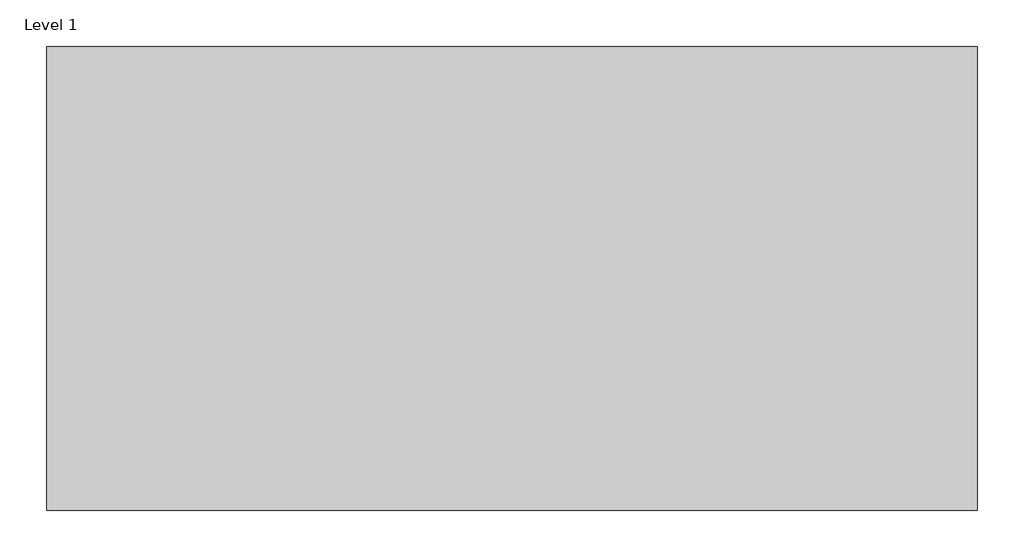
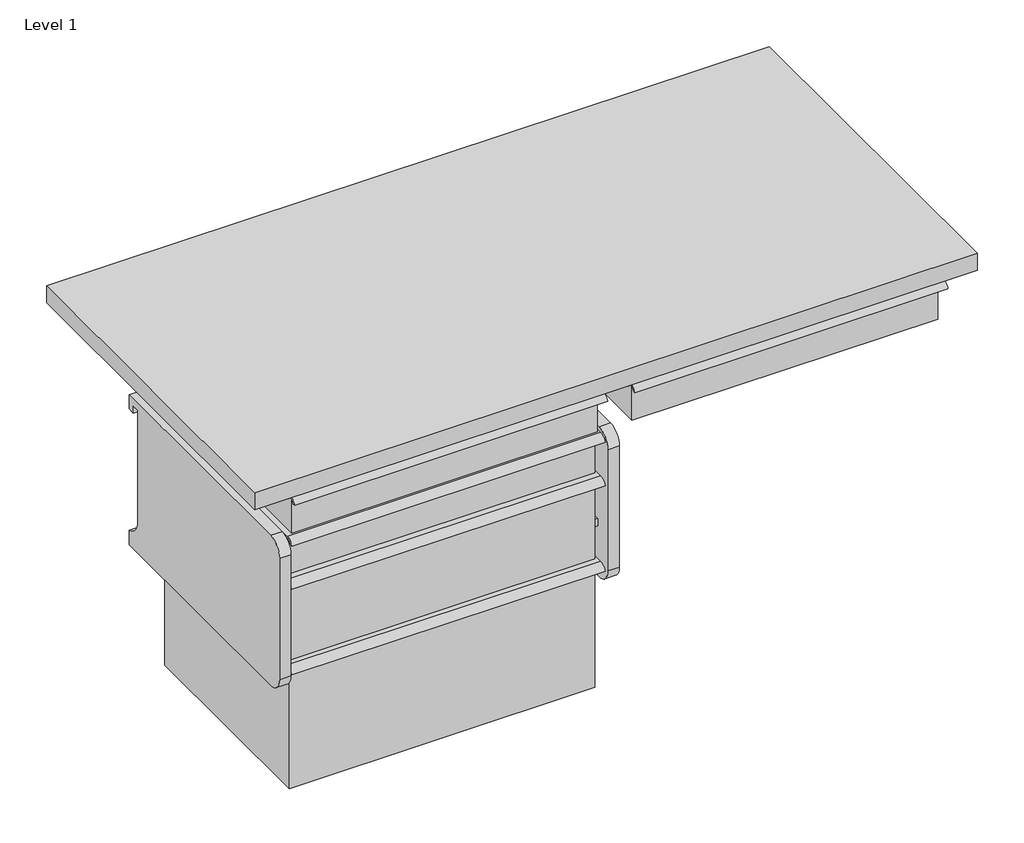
# One storey, incomplete: 7 furniture elements.
"""IFC4 building model written with IfcOpenShell, lengths in millimetres."""

from ifc_helpers import new_model, si_unit, origin, place, context, project, spatial, transform, mapped, element, save
from components import furniture_e68dc01e, a_3_71a075e6, a_3_21ecb1ea, b_6_b4610c64, c_9_dd4388d3, lam_24d_48w_f610a9d3

model = new_model("IFC4")

# Units and contexts
model_context = context("Model", 3, world=origin())
ifc_project = project(units=[si_unit("LENGTHUNIT", "METRE", prefix="MILLI")], contexts=[model_context])

# Site, building, storey
site = spatial("IfcSite", under=ifc_project)
building = spatial("IfcBuilding", under=site)
storey = spatial("IfcBuildingStorey", under=building, Name="Level 1", Elevation=0.0)

# Furniture
placement = place(None, origin())
furniture_shape = furniture_e68dc01e(model_context)
element("IfcFurniture", 1, ObjectType="HermanMiller_CoStruc_CO205_CFrame : 10H x 17D x 22W", at=placement, inside=storey, context=model_context, shape_type="MappedRepresentation", body=[
    mapped(furniture_shape, transform((241.6478551, -242.3178197, 0.0), x_axis=(1.0, 0.0, 0.0), y_axis=(0.0, 1.0, 0.0), z_axis=(0.0, 0.0, 1.0))),
])
a_3_shape = a_3_71a075e6(model_context)
element("IfcFurniture", 2, ObjectType="HermanMiller_CoStruc_CO207_Drawer : A - 3", at=placement, inside=storey, context=model_context, shape_type="MappedRepresentation", body=[
    mapped(a_3_shape, transform((909.6057117, -408.05608, 0.0), x_axis=(1.0, 0.0, 0.0), y_axis=(0.0, 1.0, 0.0), z_axis=(0.0, 0.0, 1.0))),
])
element("IfcFurniture", 3, ObjectType="HermanMiller_CoStruc_CO207_Drawer : A - 3", at=placement, inside=storey, context=model_context, shape_type="MappedRepresentation", body=[
    mapped(a_3_shape, transform((337.3132317, -408.05608, 0.0), x_axis=(1.0, 0.0, 0.0), y_axis=(0.0, 1.0, 0.0), z_axis=(0.0, 0.0, 1.0))),
])
a_3_2_shape = a_3_21ecb1ea(model_context)
element("IfcFurniture", 4, ObjectType="HermanMiller_CoStruc_CO207_Drawer : A - 3", at=placement, inside=storey, context=model_context, shape_type="MappedRepresentation", body=[
    mapped(a_3_2_shape, transform((336.5182117, -401.70608, 0.0), x_axis=(1.0, 0.0, 0.0), y_axis=(0.0, 1.0, 0.0), z_axis=(0.0, 0.0, 1.0))),
])
b_6_shape = b_6_b4610c64(model_context)
element("IfcFurniture", 5, ObjectType="HermanMiller_CoStruc_CO207_Drawer : B - 6", at=placement, inside=storey, context=model_context, shape_type="MappedRepresentation", body=[
    mapped(b_6_shape, transform((336.5182117, -401.70608, 0.0), x_axis=(1.0, 0.0, 0.0), y_axis=(0.0, 1.0, 0.0), z_axis=(0.0, 0.0, 1.0))),
])
c_9_shape = c_9_dd4388d3(model_context)
element("IfcFurniture", 6, ObjectType="HermanMiller_CoStruc_CO207_Drawer : C - 9", at=placement, inside=storey, context=model_context, shape_type="MappedRepresentation", body=[
    mapped(c_9_shape, transform((336.5182117, -401.70608, 0.0), x_axis=(1.0, 0.0, 0.0), y_axis=(0.0, 1.0, 0.0), z_axis=(0.0, 0.0, 1.0))),
])
lam_24d_48w_shape = lam_24d_48w_f610a9d3(model_context)
element("IfcFurniture", 7, ObjectType="HermanMiller_CoStruc_C4700_RectangularWorkTableSurface : Lam 24D 48W", at=placement, inside=storey, context=model_context, shape_type="MappedRepresentation", body=[
    mapped(lam_24d_48w_shape, transform((0.0, 0.0, 0.0), x_axis=(1.0, 0.0, 0.0), y_axis=(0.0, 1.0, 0.0), z_axis=(0.0, 0.0, 1.0))),
])

save(model, "model.ifc")
